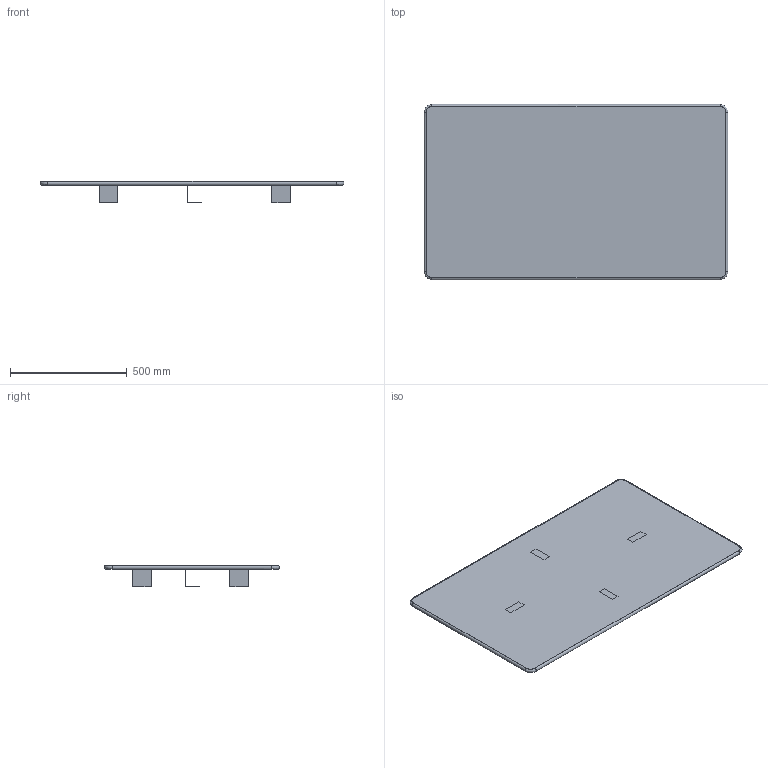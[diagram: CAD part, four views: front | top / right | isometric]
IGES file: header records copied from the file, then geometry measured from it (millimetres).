
Start section: SolidWorks IGES file using NURBS representation for surfaces
Global section: file name: G:\VICCARBE\PRODUCTOS\26-PANELES LAYER\04-MODELADOS (PLANOS)\especiales para 3D\VICCARBE_LayerPanel_1300x750d85.IGS; native system: SolidWorks 2009; preprocessor: SolidWorks 2009; author: RUBEN; date: 110906.115704; units: millimetre
Bounding box: 1301 x 751 x 90.5 mm (x, y, z)
Surface area: 2318555.4 mm2 (no closed solid volume)
Topology: 0 solids, 0 shells, 63 faces, 424 edges, 424 vertices
Faces by surface type: bspline 63
